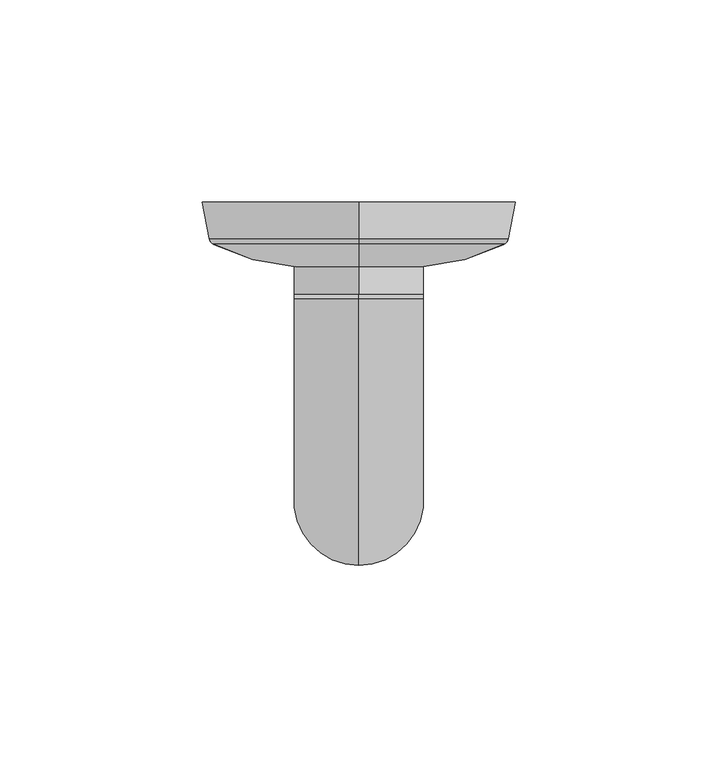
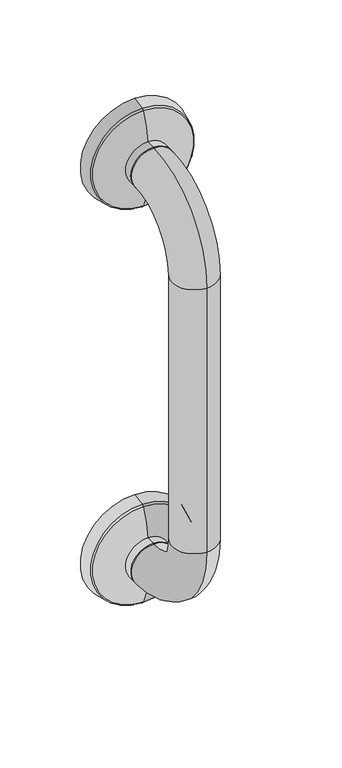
"""IFC4 building model written with IfcOpenShell, lengths in millimetres: proxy geometry, Grab Rail_Metlam_Straight_Vertical : 332long x 90d x 32w (ML327_1SS)."""

from ifc_helpers import new_model, si_unit, point, frame, origin, place, context, project, spatial, polyline, circle_curve, ellipse_curve, trimmed, source, transform, mapped, element, save
from ifc_brep_helpers import plane_surface, cylinder_surface, revolved_surface, advanced_brep


def specialty_equipment_5776d19e(model_context):
    return source(origin(), model_context, "Body", "AdvancedBrep", [
        advanced_brep(
        [(0.0, -90.0, 834.0), (0.0, -24.0, 768.0), (0.0, -24.0, 800.0), (0.0, -58.0, 834.0), (0.0, -58.0, 1034.0), (0.0, -90.0, 1034.0), (0.0, -24.0, 1068.0), (0.0, -24.0, 1100.0), (0.0, -23.0, 768.0), (0.0, -23.0, 800.0), (0.0, -23.0, 1068.0), (0.0, -23.0, 1100.0), (0.0, 0.0, 1084.0), (0.0, 0.0, 1045.0), (0.0, 0.0, 1123.0), (0.0, -9.0646354, 1046.8129271), (0.0, -9.0646354, 1121.1870729), (0.0, -10.4521085, 1120.1384075), (0.0, -10.4521085, 1047.8615925), (0.0, -16.0065539, 1068.0), (0.0, -16.0065539, 1100.0), (0.0, -9.0646354, 746.8129271), (0.0, -9.0646354, 821.1870729), (0.0, 0.0, 823.0), (0.0, 0.0, 745.0), (0.0, -16.0065539, 768.0), (0.0, -16.0065539, 800.0), (0.0, -10.4521085, 820.1384075), (0.0, -10.4521085, 747.8615925), (0.0, 0.0, 784.0)],
        [
            (0, 1, circle_curve(frame((0.0, -24.0, 834.0), z_axis=(1.0, 0.0, 0.0), x_axis=(0.0, 0.0, -1.0)), 66.0)),
            (1, 2, circle_curve(frame((0.0, -24.0, 784.0), z_axis=(0.0, -1.0, 0.0), x_axis=(0.0, 0.0, -1.0)), 16.0)),
            (2, 3, circle_curve(frame((0.0, -24.0, 834.0), z_axis=(-1.0, 0.0, 0.0), x_axis=(0.0, 0.0, -1.0)), 34.0)),
            (3, 0, circle_curve(frame((0.0, -74.0, 834.0), z_axis=(0.0, 0.0, -1.0), x_axis=(0.0, -1.0, 0.0)), 16.0)),
            (0, 3, circle_curve(frame((0.0, -74.0, 834.0), z_axis=(0.0, 0.0, -1.0), x_axis=(0.0, -1.0, 0.0)), 16.0)),
            (2, 1, circle_curve(frame((0.0, -24.0, 784.0), z_axis=(0.0, -1.0, 0.0), x_axis=(0.0, 0.0, -1.0)), 16.0)),
            (3, 4),
            (4, 5, circle_curve(frame((0.0, -74.0, 1034.0), z_axis=(0.0, 0.0, -1.0), x_axis=(0.0, -1.0, 0.0)), 16.0)),
            (5, 0),
            (5, 4, circle_curve(frame((0.0, -74.0, 1034.0), z_axis=(0.0, 0.0, -1.0), x_axis=(0.0, -1.0, 0.0)), 16.0)),
            (4, 6, circle_curve(frame((0.0, -24.0, 1034.0), z_axis=(-1.0, 0.0, 0.0), x_axis=(0.0, -1.0, 0.0)), 34.0)),
            (6, 7, circle_curve(frame((0.0, -24.0, 1084.0), z_axis=(0.0, -1.0, 0.0), x_axis=(0.0, 0.0, 1.0)), 16.0)),
            (7, 5, circle_curve(frame((0.0, -24.0, 1034.0), z_axis=(1.0, 0.0, 0.0), x_axis=(0.0, -1.0, 0.0)), 66.0)),
            (7, 6, circle_curve(frame((0.0, -24.0, 1084.0), z_axis=(0.0, -1.0, 0.0), x_axis=(0.0, 0.0, 1.0)), 16.0)),
            (1, 8),
            (8, 9, circle_curve(frame((0.0, -23.0, 784.0), z_axis=(0.0, -1.0, 0.0), x_axis=(0.0, 0.0, -1.0)), 16.0)),
            (9, 2),
            (9, 8, circle_curve(frame((0.0, -23.0, 784.0), z_axis=(0.0, -1.0, 0.0), x_axis=(0.0, 0.0, -1.0)), 16.0)),
            (6, 10),
            (10, 11, circle_curve(frame((0.0, -23.0, 1084.0), z_axis=(0.0, -1.0, 0.0), x_axis=(0.0, 0.0, 1.0)), 16.0)),
            (11, 7),
            (11, 10, circle_curve(frame((0.0, -23.0, 1084.0), z_axis=(0.0, -1.0, 0.0), x_axis=(0.0, 0.0, 1.0)), 16.0)),
            (12, 13),
            (13, 14, circle_curve(frame((0.0, 0.0, 1084.0), z_axis=(0.0, 1.0, 0.0), x_axis=(0.0, 0.0, -1.0)), 39.0)),
            (14, 12),
            (14, 13, circle_curve(frame((0.0, 0.0, 1084.0), z_axis=(0.0, 1.0, 0.0), x_axis=(0.0, 0.0, -1.0)), 39.0)),
            (13, 15),
            (15, 16, circle_curve(frame((0.0, -9.0646354, 1084.0), z_axis=(0.0, 1.0, 0.0), x_axis=(0.0, 0.0, -1.0)), 37.1870729)),
            (16, 14),
            (16, 15, circle_curve(frame((0.0, -9.0646354, 1084.0), z_axis=(0.0, 1.0, 0.0), x_axis=(0.0, 0.0, -1.0)), 37.1870729)),
            (17, 18, circle_curve(frame((0.0, -10.4521085, 1084.0), z_axis=(0.0, -1.0, 0.0), x_axis=(0.0, 0.0, -1.0)), 36.1384075)),
            (18, 19, circle_curve(frame((0.0, 35.2834961, 1071.3112908), z_axis=(-1.0, 0.0, 0.0), x_axis=(0.0, 1.0, 0.0)), 51.3968275)),
            (19, 20, circle_curve(frame((0.0, -16.0065539, 1084.0), z_axis=(0.0, 1.0, 0.0), x_axis=(0.0, 0.0, -1.0)), 16.0)),
            (20, 17, circle_curve(frame((0.0, 35.2834961, 1096.6887092), z_axis=(-1.0, 0.0, 0.0), x_axis=(0.0, 1.0, 0.0)), 51.3968275)),
            (18, 17, circle_curve(frame((0.0, -10.4521085, 1084.0), z_axis=(0.0, -1.0, 0.0), x_axis=(0.0, 0.0, -1.0)), 36.1384075)),
            (20, 19, circle_curve(frame((0.0, -16.0065539, 1084.0), z_axis=(0.0, 1.0, 0.0), x_axis=(0.0, 0.0, -1.0)), 16.0)),
            (19, 10),
            (11, 20),
            (15, 18, circle_curve(frame((0.0, -8.6724031, 1048.7740884), z_axis=(-1.0, 0.0, 0.0), x_axis=(0.0, 1.0, 0.0)), 2.0)),
            (17, 16, circle_curve(frame((0.0, -8.6724031, 1119.2259116), z_axis=(-1.0, 0.0, 0.0), x_axis=(0.0, 1.0, 0.0)), 2.0)),
            (21, 22, circle_curve(frame((0.0, -9.0646354, 784.0), z_axis=(0.0, 1.0, 0.0), x_axis=(0.0, 0.0, 1.0)), 37.1870729)),
            (22, 23),
            (23, 24, circle_curve(frame((0.0, 0.0, 784.0), z_axis=(0.0, -1.0, 0.0), x_axis=(0.0, 0.0, 1.0)), 39.0)),
            (24, 21),
            (22, 21, circle_curve(frame((0.0, -9.0646354, 784.0), z_axis=(0.0, 1.0, 0.0), x_axis=(0.0, 0.0, 1.0)), 37.1870729)),
            (24, 23, circle_curve(frame((0.0, 0.0, 784.0), z_axis=(0.0, -1.0, 0.0), x_axis=(0.0, 0.0, 1.0)), 39.0)),
            (25, 26, circle_curve(frame((0.0, -16.0065539, 784.0), z_axis=(0.0, 1.0, 0.0), x_axis=(0.0, 0.0, 1.0)), 16.0)),
            (26, 27, circle_curve(frame((0.0, 35.2834961, 796.6887092), z_axis=(-1.0, 0.0, 0.0), x_axis=(0.0, 1.0, 0.0)), 51.3968275)),
            (27, 28, circle_curve(frame((0.0, -10.4521085, 784.0), z_axis=(0.0, -1.0, 0.0), x_axis=(0.0, 0.0, 1.0)), 36.1384075)),
            (28, 25, circle_curve(frame((0.0, 35.2834961, 771.3112908), z_axis=(-1.0, 0.0, 0.0), x_axis=(0.0, 1.0, 0.0)), 51.3968275)),
            (26, 25, circle_curve(frame((0.0, -16.0065539, 784.0), z_axis=(0.0, 1.0, 0.0), x_axis=(0.0, 0.0, 1.0)), 16.0)),
            (28, 27, circle_curve(frame((0.0, -10.4521085, 784.0), z_axis=(0.0, -1.0, 0.0), x_axis=(0.0, 0.0, 1.0)), 36.1384075)),
            (25, 8),
            (9, 26),
            (23, 29),
            (29, 24),
            (21, 28, circle_curve(frame((0.0, -8.6724031, 748.7740884), z_axis=(-1.0, 0.0, 0.0), x_axis=(0.0, 1.0, 0.0)), 2.0)),
            (27, 22, circle_curve(frame((0.0, -8.6724031, 819.2259116), z_axis=(-1.0, 0.0, 0.0), x_axis=(0.0, 1.0, 0.0)), 2.0)),
        ],
        [
            revolved_surface(trimmed(ellipse_curve(frame((0.0, -24.0, 784.0), z_axis=(0.0, 1.0, 0.0), x_axis=(0.0, 0.0, -1.0)), 16.0, 16.0), [point((0.0, -24.0, 800.0))], [point((0.0, -24.0, 768.0))], True, "CARTESIAN"), (0.0, -24.0, 834.0), (-1.0, 0.0, 0.0)),
            revolved_surface(trimmed(ellipse_curve(frame((0.0, -24.0, 784.0), z_axis=(0.0, 1.0, 0.0), x_axis=(0.0, 0.0, -1.0)), 16.0, 16.0), [point((0.0, -24.0, 768.0))], [point((0.0, -24.0, 800.0))], True, "CARTESIAN"), (0.0, -24.0, 834.0), (-1.0, 0.0, 0.0)),
            cylinder_surface(frame((0.0, -74.0, 834.0), z_axis=(0.0, 0.0, -1.0), x_axis=(0.0, -1.0, 0.0)), 16.0),
            revolved_surface(trimmed(ellipse_curve(frame((0.0, -74.0, 1034.0), z_axis=(0.0, 0.0, -1.0), x_axis=(0.0, -1.0, 0.0)), 16.0, 16.0), [point((0.0, -58.0, 1034.0))], [point((0.0, -90.0, 1034.0))], True, "CARTESIAN"), (0.0, -24.0, 1034.0), (-1.0, 0.0, 0.0)),
            revolved_surface(trimmed(ellipse_curve(frame((0.0, -74.0, 1034.0), z_axis=(0.0, 0.0, -1.0), x_axis=(0.0, -1.0, 0.0)), 16.0, 16.0), [point((0.0, -90.0, 1034.0))], [point((0.0, -58.0, 1034.0))], True, "CARTESIAN"), (0.0, -24.0, 1034.0), (-1.0, 0.0, 0.0)),
            cylinder_surface(frame((0.0, -23.0, 784.0), z_axis=(0.0, 1.0, 0.0), x_axis=(0.0, 0.0, -1.0)), 16.0),
            cylinder_surface(frame((0.0, -24.0, 1084.0), z_axis=(0.0, -1.0, 0.0), x_axis=(0.0, 0.0, 1.0)), 16.0),
            plane_surface(frame((0.0, 0.0, 1084.0), z_axis=(0.0, 1.0, 0.0), x_axis=(0.0, 0.0, -1.0))),
            revolved_surface(polyline([(0.0, -9.0646354, 1046.8129271), (0.0, 0.0, 1045.0)]), (0.0, -10.0, 1084.0), (0.0, 1.0, 0.0)),
            revolved_surface(trimmed(ellipse_curve(frame((0.0, 35.2834961, 1071.3112908), z_axis=(1.0, 0.0, 0.0), x_axis=(0.0, 1.0, 0.0)), 51.3968275, 51.3968275), [point((0.0, -16.0065539, 1068.0))], [point((0.0, -10.4521085, 1047.8615925))], True, "CARTESIAN"), (0.0, -10.0, 1084.0), (0.0, 1.0, 0.0)),
            cylinder_surface(frame((0.0, -10.0, 1084.0), z_axis=(0.0, 1.0, 0.0), x_axis=(0.0, 0.0, -1.0)), 16.0),
            revolved_surface(trimmed(ellipse_curve(frame((0.0, -8.6724031, 1048.7740884), z_axis=(1.0, 0.0, 0.0), x_axis=(0.0, 1.0, 0.0)), 2.0, 2.0), [point((0.0, -10.4521085, 1047.8615925))], [point((0.0, -9.0646354, 1046.8129271))], True, "CARTESIAN"), (0.0, -10.0, 1084.0), (0.0, 1.0, 0.0)),
            revolved_surface(polyline([(0.0, 0.0, 823.0), (0.0, -9.0646354, 821.1870729)]), (0.0, -10.0, 784.0), (0.0, -1.0, 0.0)),
            revolved_surface(trimmed(ellipse_curve(frame((0.0, 35.2834961, 796.6887092), z_axis=(1.0, 0.0, 0.0), x_axis=(0.0, 1.0, 0.0)), 51.3968275, 51.3968275), [point((0.0, -10.4521085, 820.1384075))], [point((0.0, -16.0065539, 800.0))], True, "CARTESIAN"), (0.0, -10.0, 784.0), (0.0, -1.0, 0.0)),
            cylinder_surface(frame((0.0, -10.0, 784.0), z_axis=(0.0, -1.0, 0.0), x_axis=(0.0, 0.0, 1.0)), 16.0),
            plane_surface(frame((0.0, 0.0, 784.0), z_axis=(0.0, 1.0, 0.0), x_axis=(0.0, 0.0, 1.0))),
            revolved_surface(trimmed(ellipse_curve(frame((0.0, -8.6724031, 819.2259116), z_axis=(1.0, 0.0, 0.0), x_axis=(0.0, 1.0, 0.0)), 2.0, 2.0), [point((0.0, -9.0646354, 821.1870729))], [point((0.0, -10.4521085, 820.1384075))], True, "CARTESIAN"), (0.0, -10.0, 784.0), (0.0, -1.0, 0.0)),
        ],
        [
            (0, [[1, 2, 3, 4]]),
            (1, [[-1, 5, -3, 6]]),
            (2, [[-4, 7, 8, 9]]),
            (2, [[-5, -9, 10, -7]]),
            (3, [[-8, 11, 12, 13]]),
            (4, [[-10, -13, 14, -11]]),
            (5, [[-2, 15, 16, 17]]),
            (5, [[-6, -17, 18, -15]]),
            (6, [[-12, 19, 20, 21]]),
            (6, [[-14, -21, 22, -19]]),
            (7, [[23, 24, 25]]),
            (7, [[-23, -25, 26]]),
            (8, [[-24, 27, 28, 29]]),
            (8, [[-26, -29, 30, -27]]),
            (9, [[31, 32, 33, 34]]),
            (9, [[-32, 35, -34, 36]]),
            (10, [[-33, 37, -22, 38]]),
            (10, [[-36, -38, -20, -37]]),
            (11, [[-28, 39, -31, 40]]),
            (11, [[-30, -40, -35, -39]]),
            (12, [[41, 42, 43, 44]]),
            (12, [[-42, 45, -44, 46]]),
            (13, [[47, 48, 49, 50]]),
            (13, [[-48, 51, -50, 52]]),
            (14, [[-47, 53, -18, 54]]),
            (14, [[-51, -54, -16, -53]]),
            (15, [[-43, 55, 56]]),
            (15, [[-46, -56, -55]]),
            (16, [[-41, 57, -49, 58]]),
            (16, [[-45, -58, -52, -57]]),
        ],
    ),
    ])


if __name__ == "__main__":
    model = new_model("IFC4")
    model_context = context("Model", 3, world=origin())
    ifc_project = project(units=[si_unit("LENGTHUNIT", "METRE", prefix="MILLI")], contexts=[model_context])
    site = spatial("IfcSite", under=ifc_project)
    building = spatial("IfcBuilding", under=site)
    placement = place(None, origin())
    specialty_equipment_shape = specialty_equipment_5776d19e(model_context)
    element("IfcBuildingElementProxy", 1, Name="Grab Rail_Metlam_Straight_Vertical : 332long x 90d x 32w (ML327_1SS)", ObjectType="Grab Rail_Metlam_Straight_Vertical : 332long x 90d x 32w (ML327_1SS)", at=placement, inside=building, context=model_context, shape_type="MappedRepresentation", body=[
        mapped(specialty_equipment_shape, transform((0.0, 0.0, 0.0), x_axis=(1.0, 0.0, 0.0), y_axis=(0.0, 1.0, 0.0), z_axis=(0.0, 0.0, 1.0))),
    ])
    save(model, "model.ifc")
